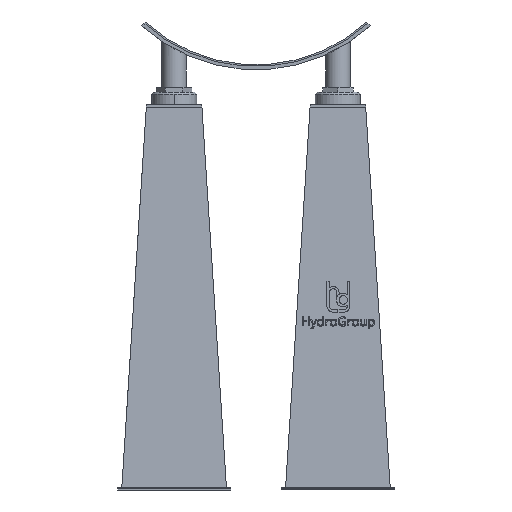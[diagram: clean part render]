
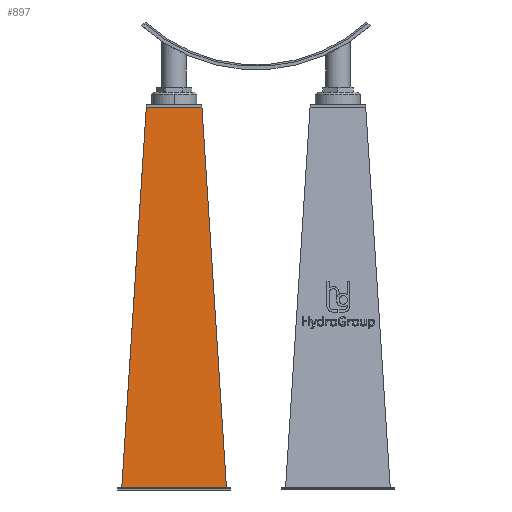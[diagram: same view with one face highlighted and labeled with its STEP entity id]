
A CAD part, front view. The second image highlights one B-rep face of the part: STEP entity #897.
In plain terms, the highlighted planar face has unit normal (0, -0.998, 0.064).
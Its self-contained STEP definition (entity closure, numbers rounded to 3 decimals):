
#897=ADVANCED_FACE('',(#1981),#1982,.F.);
#1981=FACE_OUTER_BOUND('',#3340,.T.);
#1982=PLANE('',#3341);
#3340=EDGE_LOOP('',(#5966,#5967,#5968,#5969));
#3341=AXIS2_PLACEMENT_3D('',#5970,#5971,#5972);
#5966=ORIENTED_EDGE('',*,*,#8803,.T.);
#5967=ORIENTED_EDGE('',*,*,#8819,.F.);
#5968=ORIENTED_EDGE('',*,*,#8829,.F.);
#5969=ORIENTED_EDGE('',*,*,#8557,.T.);
#5970=CARTESIAN_POINT('',(177.752,312.684,375.618));
#5971=DIRECTION('',(0.,0.998,-0.064));
#5972=DIRECTION('',(1.0,0.,0.));
#8557=EDGE_CURVE('',#10209,#10207,#10210,.F.);
#8803=EDGE_CURVE('',#10207,#10533,#10535,.T.);
#8819=EDGE_CURVE('',#10555,#10533,#10557,.T.);
#8829=EDGE_CURVE('',#10209,#10555,#10570,.T.);
#10207=VERTEX_POINT('',#12875);
#10209=VERTEX_POINT('',#12878);
#10210=LINE('',#12879,#12880);
#10533=VERTEX_POINT('',#13465);
#10535=LINE('',#13468,#13469);
#10555=VERTEX_POINT('',#13498);
#10557=LINE('',#13501,#13502);
#10570=LINE('',#13521,#13522);
#12875=CARTESIAN_POINT('',(-15.061,252.865,-553.575));
#12878=CARTESIAN_POINT('',(44.746,312.672,375.425));
#12879=CARTESIAN_POINT('',(45.037,312.964,379.959));
#12880=VECTOR('',#16174,1.0);
#13465=CARTESIAN_POINT('',(240.565,252.865,-553.575));
#13468=CARTESIAN_POINT('',(145.252,252.865,-553.575));
#13469=VECTOR('',#16350,1.0);
#13498=CARTESIAN_POINT('',(180.758,312.672,375.425));
#13501=CARTESIAN_POINT('',(180.466,312.964,379.959));
#13502=VECTOR('',#16361,1.0);
#13521=CARTESIAN_POINT('',(145.252,312.672,375.425));
#13522=VECTOR('',#16368,1.0);
#16174=DIRECTION('',(0.064,0.064,0.996));
#16350=DIRECTION('',(1.0,0.,0.));
#16361=DIRECTION('',(0.064,-0.064,-0.996));
#16368=DIRECTION('',(1.0,0.,0.));
